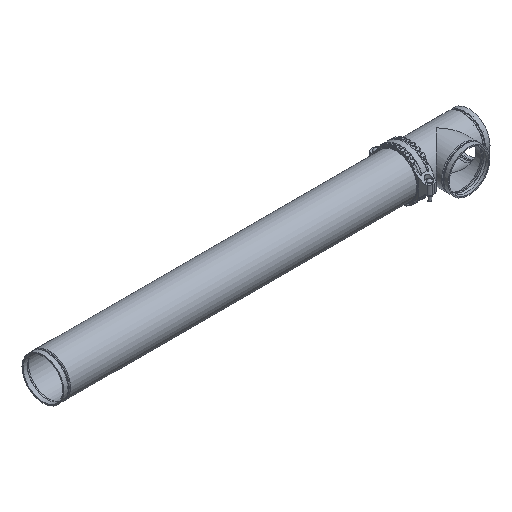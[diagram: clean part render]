
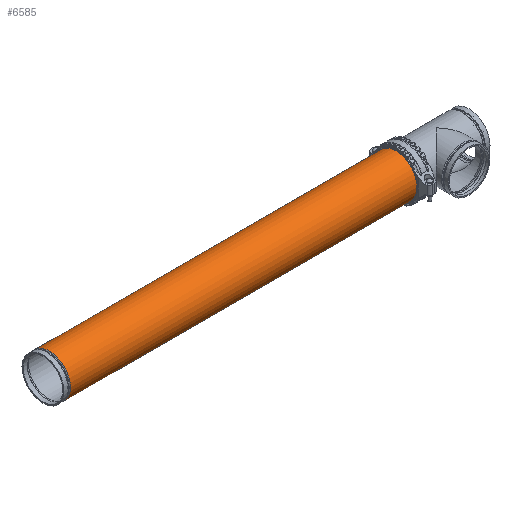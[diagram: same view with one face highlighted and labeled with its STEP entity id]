
A CAD part, isometric view. The second image highlights one B-rep face of the part: STEP entity #6585.
In plain terms, the highlighted cylindrical face has radius 177.8 mm (diameter 355.6 mm), a full revolution.
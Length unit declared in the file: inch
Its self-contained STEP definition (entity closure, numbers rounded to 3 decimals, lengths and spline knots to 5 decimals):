
#310=LINE('',#9818,#690);
#690=VECTOR('',#7874,7.);
#1069=CYLINDRICAL_SURFACE('',#7047,7.);
#1261=FACE_OUTER_BOUND('',#1603,.T.);
#1603=EDGE_LOOP('',(#4145,#4146,#4147,#4148,#4149,#4150));
#1979=CIRCLE('',#7045,7.);
#1980=CIRCLE('',#7046,7.);
#1981=CIRCLE('',#7048,7.);
#1982=CIRCLE('',#7049,7.);
#2408=VERTEX_POINT('',#9808);
#2409=VERTEX_POINT('',#9809);
#2410=VERTEX_POINT('',#9814);
#2411=VERTEX_POINT('',#9815);
#3109=EDGE_CURVE('',#2408,#2409,#1979,.T.);
#3110=EDGE_CURVE('',#2409,#2408,#1980,.T.);
#3112=EDGE_CURVE('',#2410,#2411,#1981,.T.);
#3113=EDGE_CURVE('',#2411,#2410,#1982,.T.);
#3114=EDGE_CURVE('',#2411,#2409,#310,.T.);
#4145=ORIENTED_EDGE('',*,*,#3112,.F.);
#4146=ORIENTED_EDGE('',*,*,#3113,.F.);
#4147=ORIENTED_EDGE('',*,*,#3114,.T.);
#4148=ORIENTED_EDGE('',*,*,#3110,.T.);
#4149=ORIENTED_EDGE('',*,*,#3109,.T.);
#4150=ORIENTED_EDGE('',*,*,#3114,.F.);
#6585=ADVANCED_FACE('',(#1261),#1069,.T.);
#7045=AXIS2_PLACEMENT_3D('',#9810,#7863,#7864);
#7046=AXIS2_PLACEMENT_3D('',#9811,#7865,#7866);
#7047=AXIS2_PLACEMENT_3D('',#9813,#7868,#7869);
#7048=AXIS2_PLACEMENT_3D('',#9816,#7870,#7871);
#7049=AXIS2_PLACEMENT_3D('',#9817,#7872,#7873);
#7863=DIRECTION('center_axis',(1.,0.,0.));
#7864=DIRECTION('ref_axis',(0.,1.,0.));
#7865=DIRECTION('center_axis',(1.,0.,0.));
#7866=DIRECTION('ref_axis',(0.,1.,0.));
#7868=DIRECTION('center_axis',(1.,0.,0.));
#7869=DIRECTION('ref_axis',(0.,1.,0.));
#7870=DIRECTION('center_axis',(1.,0.,0.));
#7871=DIRECTION('ref_axis',(0.,1.,0.));
#7872=DIRECTION('center_axis',(1.,0.,0.));
#7873=DIRECTION('ref_axis',(0.,1.,0.));
#7874=DIRECTION('',(-1.,0.,0.));
#9808=CARTESIAN_POINT('',(-57.88023,7.,0.));
#9809=CARTESIAN_POINT('',(-57.88023,-7.,0.));
#9810=CARTESIAN_POINT('Origin',(-57.88023,0.,
0.));
#9811=CARTESIAN_POINT('Origin',(-57.88023,0.,
0.));
#9813=CARTESIAN_POINT('Origin',(0.,0.,
0.));
#9814=CARTESIAN_POINT('',(57.88023,7.,0.));
#9815=CARTESIAN_POINT('',(57.88023,-7.,0.));
#9816=CARTESIAN_POINT('Origin',(57.88023,0.,0.));
#9817=CARTESIAN_POINT('Origin',(57.88023,0.,0.));
#9818=CARTESIAN_POINT('',(0.,-7.,0.));
